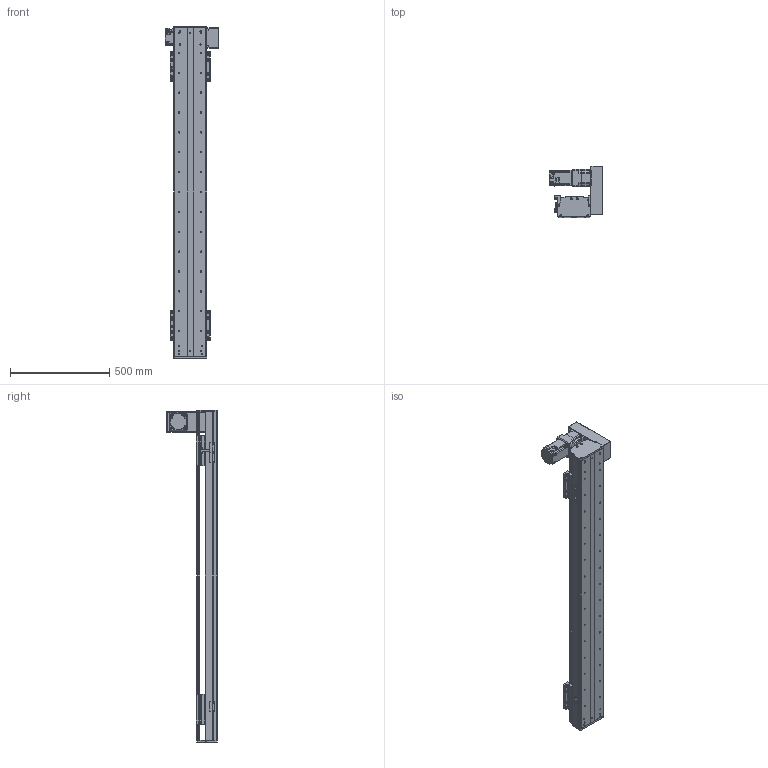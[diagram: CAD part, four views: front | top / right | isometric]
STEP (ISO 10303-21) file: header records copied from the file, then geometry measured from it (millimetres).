
FILE_DESCRIPTION(/* description */ (''),/* implementation_level */ '2;1');
FILE_NAME(/* name */ 'C:\Users\PC\Desktop\3D도면\STEP\새 폴더\DSB165-UR7G-W1300-L.stp',/* time_stamp */ '2018-06-25T15:18:56+09:00',/* author */ ('PC'),/* organization */ (''),/* preprocessor_version */ 'ST-DEVELOPER v16.5',/* originating_system */ 'Autodesk Inventor 2017',/* authorisation */ '');
FILE_SCHEMA (('AUTOMOTIVE_DESIGN { 1 0 10303 214 3 1 1 }'));
Length unit declared in the file: millimetre
Products named in the file (12): DSB165-UL7G-W1300-R_MIR; DSB165-BASE-L_MIR; hg-kr73__MIR; ab0901-p0401300102_MIR; 11-DSB165 BELT COVER_MIR; 12-DSB165-REAR COVER_MIR; 14-DSB165-FRONT COVER_MIR; DSB165-UP COVER_MIR; DSR165-SENSOR DOG_MIR; pm-y65_step_MIR; SENSOR BRACKET(EE-SX674A)_MIR; DSB165-TABLE(MSB20S)_MIR
Assembly tree (16 placements, depth 2):
  DSB165-UL7G-W1300-R_MIR
    DSB165-BASE-L_MIR
    hg-kr73__MIR
    ab0901-p0401300102_MIR
    11-DSB165 BELT COVER_MIR
    12-DSB165-REAR COVER_MIR
    14-DSB165-FRONT COVER_MIR
    DSB165-UP COVER_MIR
    DSR165-SENSOR DOG_MIR
    pm-y65_step_MIR  x3
    SENSOR BRACKET(EE-SX674A)_MIR  x3
    DSB165-TABLE(MSB20S)_MIR  x2
Bounding box: 270 x 254 x 1670 mm (x, y, z)
Volume: 10238339.2 mm3; surface area: 2378753 mm2
Topology: 17 solids, 17 shells, 1681 faces, 4514 edges, 2972 vertices
Faces by surface type: plane 921, cylinder 626, cone 122, sphere 8, torus 4
Full cylindrical faces by diameter (mm): 2.459 x20, 3.5 x6, 4.134 x42, 4.5 x18, 5 x27, 5.5 x36, 5.9 x4, 6 x4, 6.6 x14, 6.647 x50, 6.8 x1, 7 x4, 7.6 x4, 8.4 x1, 8.5 x24, 8.7 x1, 9.5 x32, 11 x6, 14 x16, 19 x1, 22 x1, 24 x1, 25 x1, 28 x1, 67 x1, 70 x2, 80 x1
Entity records: 36424 total; most frequent: DIRECTION 6314, CARTESIAN_POINT 6111, ORIENTED_EDGE 5562, EDGE_CURVE 2781, AXIS2_PLACEMENT_3D 2327, VERTEX_POINT 1986, EDGE_LOOP 1759, LINE 1660
